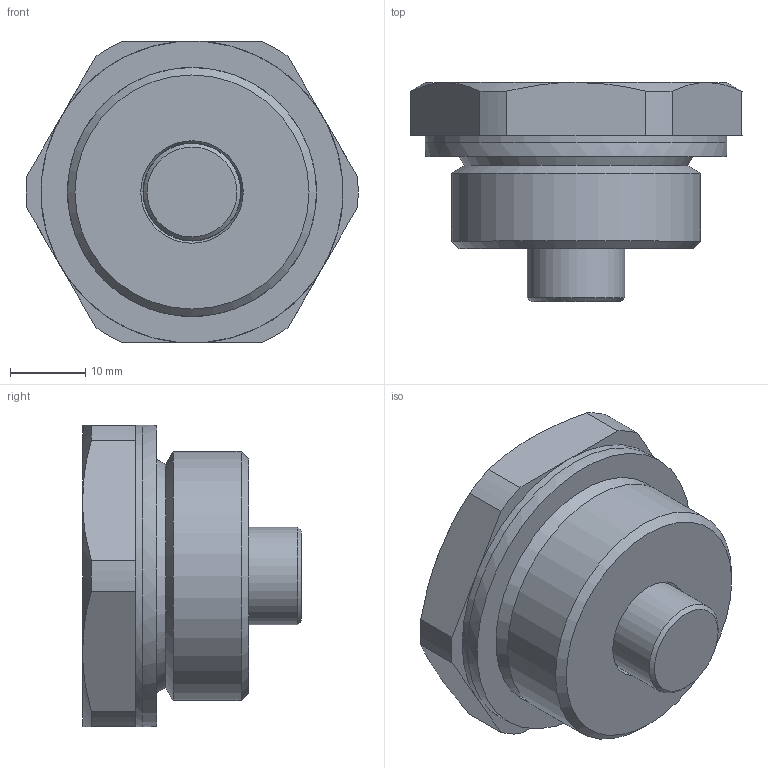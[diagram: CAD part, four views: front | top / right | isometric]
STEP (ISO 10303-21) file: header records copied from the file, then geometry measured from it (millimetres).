
FILE_DESCRIPTION(/* description */ (''),/* implementation_level */ '2;1');
FILE_NAME(/* name */ 'W:\ARCHIVIO UFFICIO TECNICO\ARTICOLI DI PRODUZIONE\COMPLESSIVI ARTICOLI STANDARD\TMA\TMA_1.stp',/* time_stamp */ '2023-09-28T11:18:13+02:00',/* author */ ('tecnico'),/* organization */ (''),/* preprocessor_version */ 'ST-DEVELOPER v18',/* originating_system */ 'Autodesk Inventor 2020',/* authorisation */ '');
FILE_SCHEMA (('AUTOMOTIVE_DESIGN { 1 0 10303 214 3 1 1 }','AP242_MANAGED_MODEL_BASED_3D_ENGINEERING_MIM_LF { 1 0 10303 442 1 1 4 }'));
Length unit declared in the file: millimetre
Products named in the file (1): TMA_1_Shrinkwrap_1
Bounding box: 43.98 x 29 x 40 mm (x, y, z)
Volume: 23826.8 mm3; surface area: 6788.5 mm2
Topology: 2 solids, 2 shells, 42 faces, 100 edges, 63 vertices
Faces by surface type: plane 17, cone 13, cylinder 12
Full cylindrical faces by diameter (mm): 12.9 x1, 13 x1, 33 x2, 40 x2
Entity records: 1318 total; most frequent: CARTESIAN_POINT 229, DIRECTION 223, ORIENTED_EDGE 198, EDGE_CURVE 99, AXIS2_PLACEMENT_3D 93, VERTEX_POINT 63, CIRCLE 50, EDGE_LOOP 44
